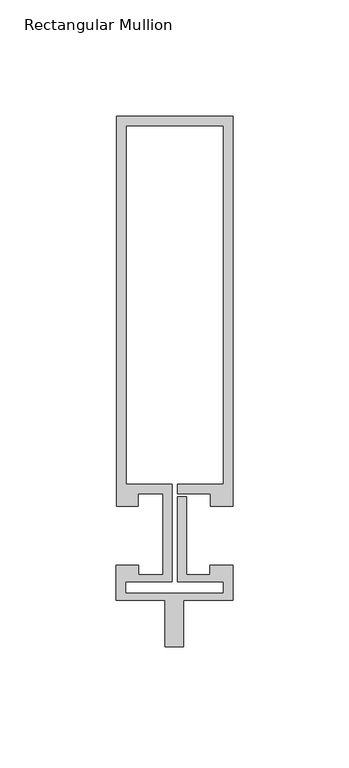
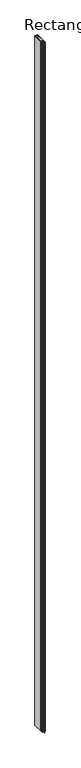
"""IFC4 building model written with IfcOpenShell, lengths in millimetres: member geometry, Rectangular Mullion : Reynaers_CW-50_Transom-Transom_167.5mm_Facecap-06A."""

from ifc_helpers import new_model, si_unit, frame, origin, place, context, project, spatial, polyline, outline, extrude, source, transform, mapped, element, save


def rectangular_mullion_5bd67411(model_context):
    return source(origin(), model_context, "Body", "SweptSolid", [
        extrude(outline(polyline([(25.1995941, 12.7331291), (15.499, 12.7331291), (15.499, 18.1331291), (1.2995941, 18.1331291), (1.2995941, 22.1331291), (21.1995941, 22.1331291), (21.1995941, 176.2331291), (-20.8004059, 176.2331291), (-20.8004059, 22.1331291), (-0.9004059, 22.1331291), (-0.9004059, -19.7331291), (-20.994845, -19.7331291), (-20.994845, -24.6522629), (21.1995941, -24.6522629), (21.1995941, -19.7331291), (1.2995941, -19.7331291), (1.2995941, 16.7615089), (5.2995941, 16.7615089), (5.2995941, -16.7331291), (15.2996495, -16.7331291), (15.2996495, -12.7331291), (25.1995941, -12.7331291), (25.1995941, -27.7331291), (4.004855, -27.7331291), (4.004855, -47.7331291), (-3.995145, -47.7331291), (-3.995145, -27.7331291), (-24.994845, -27.7331291), (-24.994845, -12.7331291), (-15.2996495, -12.7331291), (-15.2996495, -16.7331291), (-4.9004059, -16.7331291), (-4.9004059, 18.1331291), (-15.499, 18.1331291), (-15.499, 12.7331291), (-24.8004059, 12.7331291), (-24.8004059, 180.2331291), (25.1995941, 180.2331291), (25.1995941, 12.7331291)])), frame((0.0, 0.0, -12000.0), z_axis=(0.0, 0.0, 1.0), x_axis=(1.0, 0.0, 0.0)), (0.0, 0.0, 1.0), 12000.0),
    ])


if __name__ == "__main__":
    model = new_model("IFC4")
    model_context = context("Model", 3, world=origin())
    ifc_project = project(units=[si_unit("LENGTHUNIT", "METRE", prefix="MILLI")], contexts=[model_context])
    site = spatial("IfcSite", under=ifc_project)
    building = spatial("IfcBuilding", under=site)
    placement = place(None, origin())
    rectangular_mullion_shape = rectangular_mullion_5bd67411(model_context)
    element("IfcMember", 1, ObjectType="Rectangular Mullion : Reynaers_CW-50_Transom-Transom_167.5mm_Facecap-06A", at=placement, inside=building, context=model_context, shape_type="MappedRepresentation", body=[
        mapped(rectangular_mullion_shape, transform((0.0, 0.0, 0.0), x_axis=(1.0, 0.0, 0.0), y_axis=(0.0, 1.0, 0.0), z_axis=(0.0, 0.0, 1.0))),
    ])
    save(model, "model.ifc")
